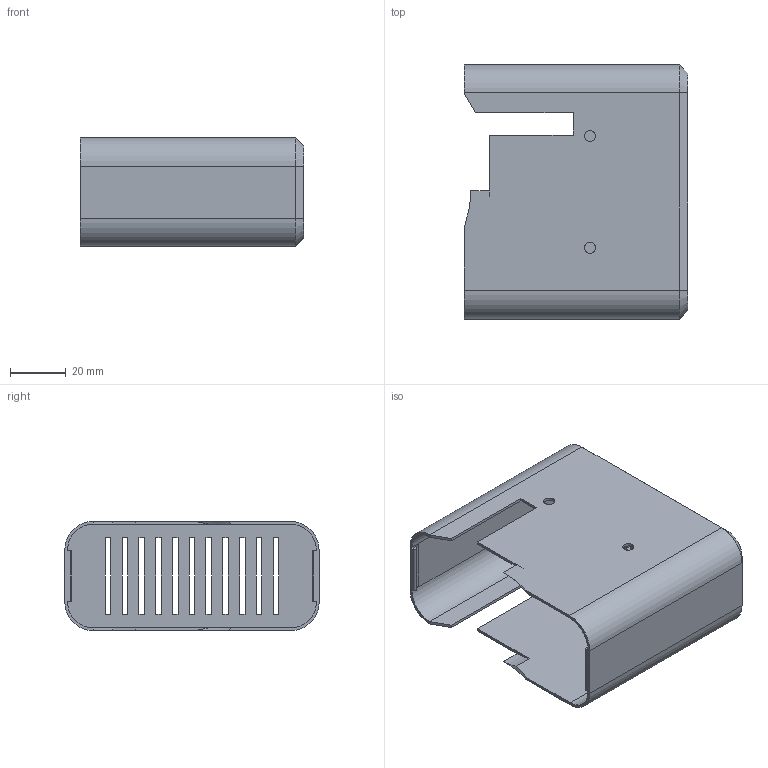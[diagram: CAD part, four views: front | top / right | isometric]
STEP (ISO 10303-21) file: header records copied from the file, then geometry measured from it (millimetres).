
FILE_DESCRIPTION(('CATIA V5 STEP Exchange'),'2;1');
FILE_NAME('D:\MENA 3D\BISMARK\TAPA_BASE_MAIN.stp','2024-11-25T07:12:41+00:00',('none'),('none'),'CATIA Version 5 Release 21 GA (IN-10)','CATIA V5 STEP AP203','none');
FILE_SCHEMA(('CONFIG_CONTROL_DESIGN'));
Length unit declared in the file: millimetre
Products named in the file (1): TAPA_BASE_MAIN
Bounding box: 80 x 91 x 39 mm (x, y, z)
Volume: 24570.7 mm3; surface area: 42333.2 mm2
Topology: 1 solids, 1 shells, 104 faces, 298 edges, 196 vertices
Faces by surface type: plane 82, cylinder 16, cone 6
Entity records: 3294 total; most frequent: CARTESIAN_POINT 625, ORIENTED_EDGE 596, DIRECTION 432, EDGE_CURVE 298, VECTOR 254, LINE 254, VERTEX_POINT 196, EDGE_LOOP 132
